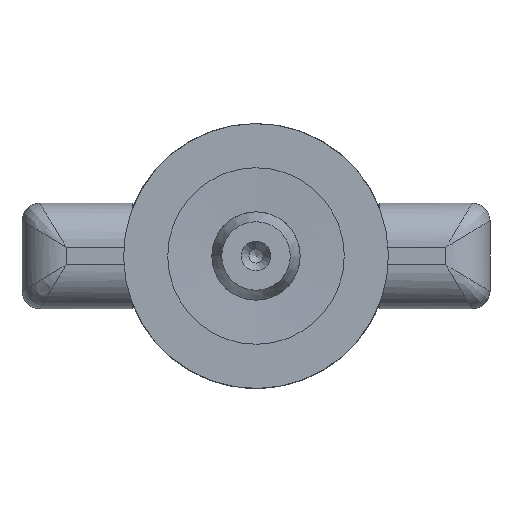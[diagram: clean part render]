
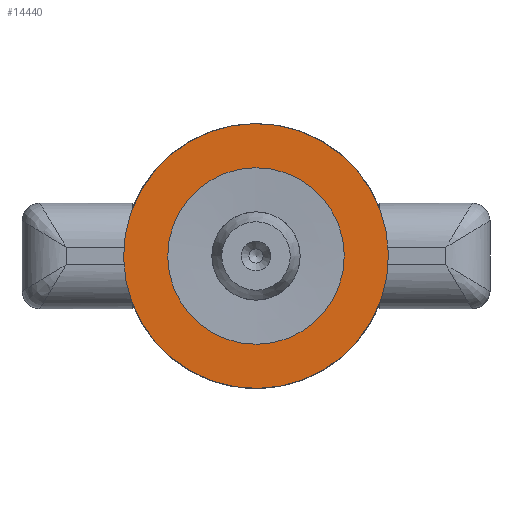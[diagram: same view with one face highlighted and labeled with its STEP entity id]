
A CAD part, front view. The second image highlights one B-rep face of the part: STEP entity #14440.
In plain terms, the highlighted planar face has unit normal (0, -1, 0) as drawn and (0, 0, -1) by its records, which use the part's own axes.
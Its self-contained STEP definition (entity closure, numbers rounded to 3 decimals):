
#356=FACE_BOUND('',#5436,.T.);
#724=PLANE('',#15380);
#4508=FACE_OUTER_BOUND('',#5435,.T.);
#5435=EDGE_LOOP('',(#13598));
#5436=EDGE_LOOP('',(#13599));
#5732=CIRCLE('',#15363,15.);
#5739=CIRCLE('',#15377,10.);
#7144=VERTEX_POINT('',#46039);
#7151=VERTEX_POINT('',#46060);
#9294=EDGE_CURVE('',#7144,#7144,#5732,.T.);
#9301=EDGE_CURVE('',#7151,#7151,#5739,.T.);
#13598=ORIENTED_EDGE('',*,*,#9294,.T.);
#13599=ORIENTED_EDGE('',*,*,#9301,.F.);
#14440=ADVANCED_FACE('',(#4508,#356),#724,.F.);
#15363=AXIS2_PLACEMENT_3D('',#46040,#17946,#17947);
#15377=AXIS2_PLACEMENT_3D('',#46061,#17974,#17975);
#15380=AXIS2_PLACEMENT_3D('',#46065,#17980,#17981);
#17946=DIRECTION('center_axis',(0.,0.,-1.));
#17947=DIRECTION('ref_axis',(-1.,0.,0.));
#17974=DIRECTION('center_axis',(0.,0.,-1.));
#17975=DIRECTION('ref_axis',(-1.,0.,0.));
#17980=DIRECTION('center_axis',(0.,0.,1.));
#17981=DIRECTION('ref_axis',(1.,0.,0.));
#46039=CARTESIAN_POINT('',(15.,0.,0.));
#46040=CARTESIAN_POINT('Origin',(0.,0.,0.));
#46060=CARTESIAN_POINT('',(10.,0.,0.));
#46061=CARTESIAN_POINT('Origin',(0.,0.,0.));
#46065=CARTESIAN_POINT('Origin',(0.,0.,0.));
